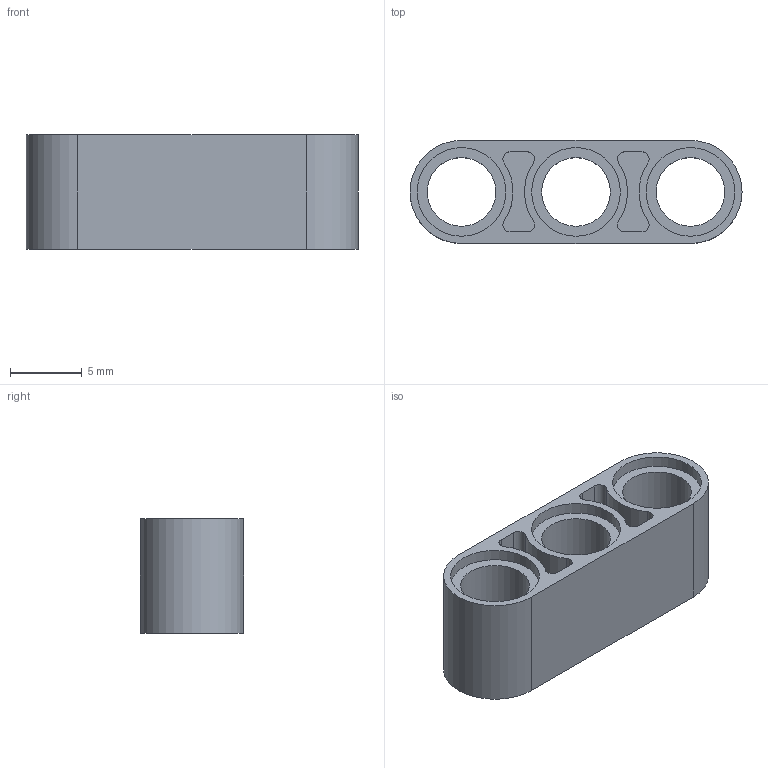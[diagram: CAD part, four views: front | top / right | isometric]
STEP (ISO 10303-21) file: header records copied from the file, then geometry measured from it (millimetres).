
FILE_DESCRIPTION(/* description */ ('Unknown'),/* implementation_level */ '2;1');
FILE_NAME(/* name */ 'Ye_4153707_AVV',/* time_stamp */ '2025-07-22T00:08:16+02:00',/* author */ ('Unknown'),/* organization */ ('Unknown'),/* preprocessor_version */ 'ST-DEVELOPER v19.4',/* originating_system */ 'Solid Edge',/* authorisation */ 'Unknown');
FILE_SCHEMA (('AUTOMOTIVE_DESIGN {1 0 10303 214 3 1 1}'));
Length unit declared in the file: millimetre
Products named in the file (1): Ye_4153707_AVV
Bounding box: 23.2 x 7.2 x 8 mm (x, y, z)
Volume: 655.2 mm3; surface area: 1213.4 mm2
Topology: 1 solids, 1 shells, 57 faces, 135 edges, 90 vertices
Faces by surface type: cylinder 35, plane 22
Full cylindrical faces by diameter (mm): 4.8 x3, 6.2 x6
Entity records: 1676 total; most frequent: DIRECTION 312, CARTESIAN_POINT 274, ORIENTED_EDGE 252, AXIS2_PLACEMENT_3D 128, EDGE_CURVE 126, VERTEX_POINT 90, EDGE_LOOP 82, FACE_BOUND 82
